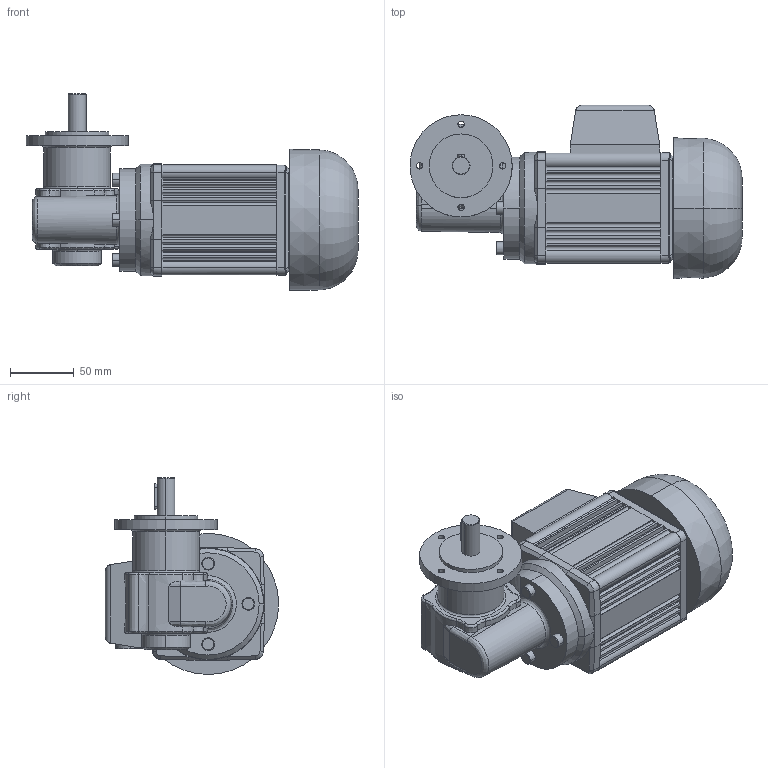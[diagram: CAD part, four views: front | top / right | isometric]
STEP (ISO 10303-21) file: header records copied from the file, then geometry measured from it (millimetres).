
FILE_DESCRIPTION(('OneSpaceDesigner STEP Export'),'2;1');
FILE_NAME('OEG51_GF132-10_F.stp','2008-06-18T15:12:52',(''),(''),'OneSpace Designer STEP processor (Jan. 2003) for AP214(CD)(Solid Model)','OneSpace Designer 12.01D 09-Jul-2004 (C) CoCreate Software GmbH','');
FILE_SCHEMA(('AUTOMOTIVE_DESIGN_CC2 {1 2 10303 214 -1 1 5 1}'));
Length unit declared in the file: millimetre
Products named in the file (2): OEG51_GF132-10_F
Assembly tree (1 placements, depth 2):
  OEG51_GF132-10_F
    OEG51_GF132-10_F
Bounding box: 260 x 135.73 x 154.25 mm (x, y, z)
Volume: 1855144.2 mm3; surface area: 149078.9 mm2
Topology: 1 solids, 1 shells, 431 faces, 1135 edges, 705 vertices
Faces by surface type: plane 200, cylinder 115, bspline 63, extrusion 25, cone 20, torus 8
Entity records: 24616 total; most frequent: CARTESIAN_POINT 15341, ORIENTED_EDGE 2270, DIRECTION 1461, EDGE_CURVE 1135, VERTEX_POINT 705, VECTOR 599, LINE 581, EDGE_LOOP 450
